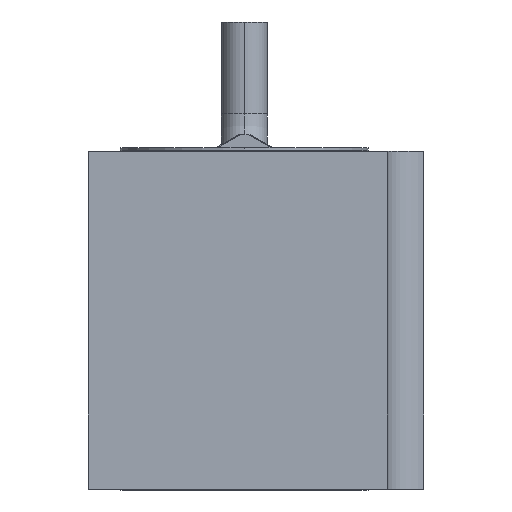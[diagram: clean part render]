
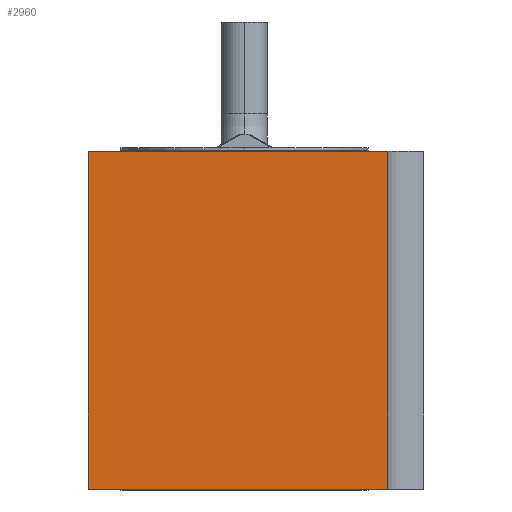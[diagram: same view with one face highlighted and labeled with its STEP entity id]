
A CAD part, left-side view. The second image highlights one B-rep face of the part: STEP entity #2960.
In plain terms, the highlighted planar face has unit normal (-1, 0, 0).
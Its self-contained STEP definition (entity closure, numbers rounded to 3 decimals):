
#51=DIRECTION('',(0.,1.,0.));
#52=VECTOR('',#51,32.576);
#53=CARTESIAN_POINT('',(0.,4.,18.39));
#54=LINE('',#53,#52);
#943=DIRECTION('',(0.,0.,-1.));
#944=VECTOR('',#943,36.779);
#945=CARTESIAN_POINT('',(0.,36.576,18.39));
#946=LINE('',#945,#944);
#977=DIRECTION('',(0.,0.,1.));
#978=VECTOR('',#977,36.779);
#979=CARTESIAN_POINT('',(0.,4.,-18.39));
#980=LINE('',#979,#978);
#981=DIRECTION('',(0.,1.,0.));
#982=VECTOR('',#981,32.576);
#983=CARTESIAN_POINT('',(0.,4.,-18.39));
#984=LINE('',#983,#982);
#1493=CARTESIAN_POINT('',(0.,36.576,-18.39));
#1494=VERTEX_POINT('',#1493);
#1547=CARTESIAN_POINT('',(0.,36.576,18.39));
#1549=VERTEX_POINT('',#1547);
#1569=CARTESIAN_POINT('',(0.,4.,-18.39));
#1570=CARTESIAN_POINT('',(0.,4.,18.39));
#1571=VERTEX_POINT('',#1569);
#1572=VERTEX_POINT('',#1570);
#2949=CARTESIAN_POINT('',(0.,36.576,-18.39));
#2950=DIRECTION('',(-1.,0.,0.));
#2951=DIRECTION('',(0.,-1.,0.));
#2952=AXIS2_PLACEMENT_3D('',#2949,#2950,#2951);
#2953=PLANE('',#2952);
#2954=ORIENTED_EDGE('',*,*,#1861,.F.);
#2955=ORIENTED_EDGE('',*,*,#1836,.T.);
#2956=ORIENTED_EDGE('',*,*,#2926,.F.);
#2957=ORIENTED_EDGE('',*,*,#1893,.F.);
#2958=EDGE_LOOP('',(#2954,#2955,#2956,#2957));
#2959=FACE_OUTER_BOUND('',#2958,.F.);
#2960=ADVANCED_FACE('',(#2959),#2953,.T.);
#1836=EDGE_CURVE('',#1571,#1494,#984,.T.);
#1861=EDGE_CURVE('',#1571,#1572,#980,.T.);
#1893=EDGE_CURVE('',#1572,#1549,#54,.T.);
#2926=EDGE_CURVE('',#1549,#1494,#946,.T.);
